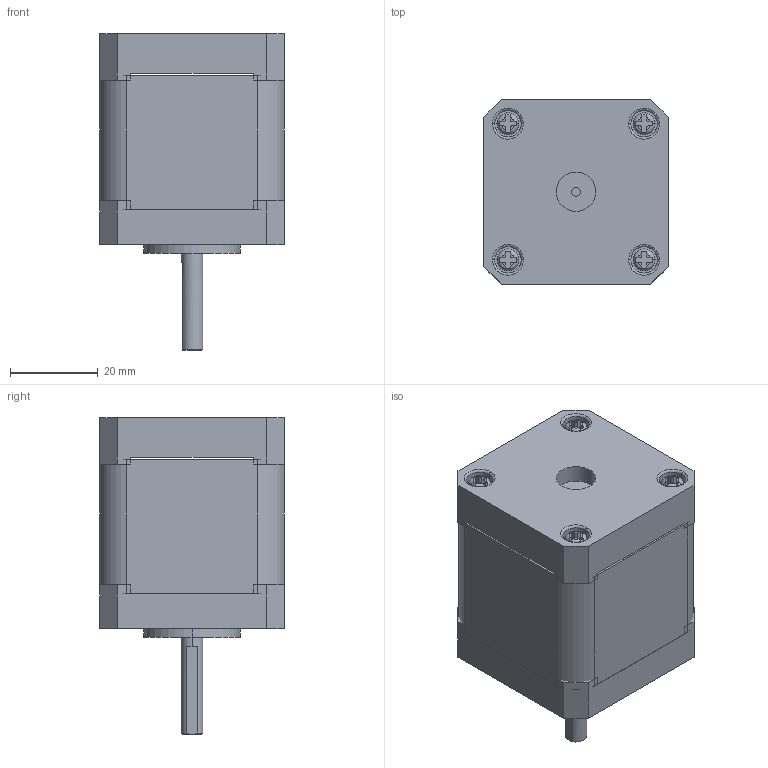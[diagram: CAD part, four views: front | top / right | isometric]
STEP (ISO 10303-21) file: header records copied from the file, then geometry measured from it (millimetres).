
FILE_DESCRIPTION (( 'STEP AP203' ), '1' );
FILE_NAME ('42J1848-810.STEP', '2018-11-23T02:02:30', ( 'USER-' ), ( 'MS' ), 'SwSTEP 2.0', 'SolidWorks 2015', '' );
FILE_SCHEMA (( 'CONFIG_CONTROL_DESIGN' ));
Length unit declared in the file: millimetre
Products named in the file (4): 42J1848-810; 42儂旯_1; 42J1848菁裔; 42J1848奻裔3X
Assembly tree (3 placements, depth 2):
  42J1848-810
    42儂旯_1
    42J1848菁裔
    42J1848奻裔3X
Bounding box: 42 x 42 x 72 mm (x, y, z)
Volume: 82354.7 mm3; surface area: 19577.9 mm2
Topology: 3 solids, 3 shells, 211 faces, 533 edges, 347 vertices
Faces by surface type: plane 119, cylinder 64, bspline 16, cone 12
Entity records: 7015 total; most frequent: CARTESIAN_POINT 1623, ORIENTED_EDGE 1066, DIRECTION 1013, EDGE_CURVE 533, AXIS2_PLACEMENT_3D 361, VERTEX_POINT 347, LINE 291, VECTOR 291
